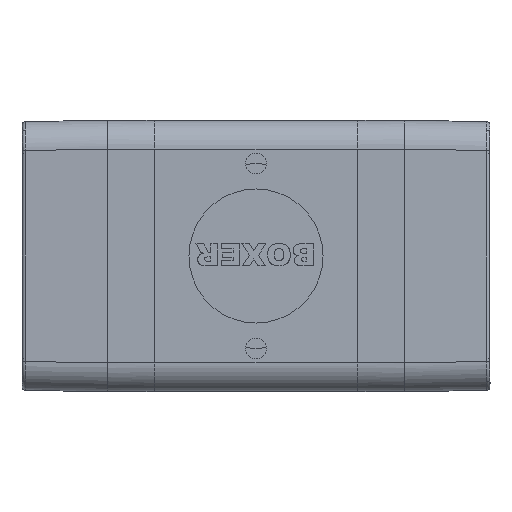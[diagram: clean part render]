
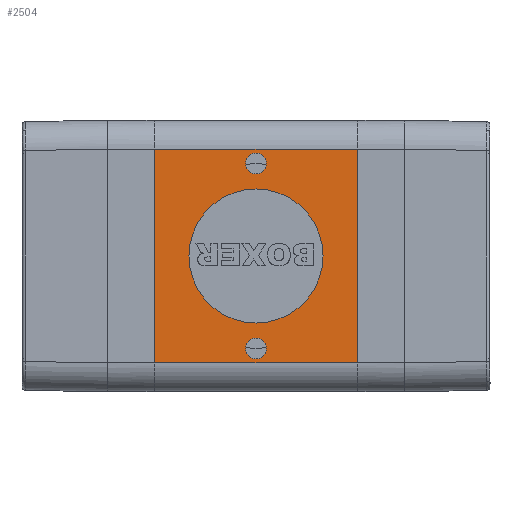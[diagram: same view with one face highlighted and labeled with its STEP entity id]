
A CAD part, left-side view. The second image highlights one B-rep face of the part: STEP entity #2504.
In plain terms, the highlighted planar face has unit normal (-1, 0, 0).
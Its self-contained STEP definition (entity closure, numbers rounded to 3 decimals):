
#322 = DIRECTION ( 'NONE',  ( -1., 0., 0. ) ) ;
#325 = CARTESIAN_POINT ( 'NONE',  ( -16.75, 0., -7.1 ) ) ;
#843 = EDGE_CURVE ( 'NONE', #14903, #11893, #7608, .T. ) ;
#1149 = FACE_BOUND ( 'NONE', #12073, .T. ) ;
#1371 = CIRCLE ( 'NONE', #7294, 5.8 ) ;
#1554 = CARTESIAN_POINT ( 'NONE',  ( -16.75, 8.775, 0. ) ) ;
#1674 = ORIENTED_EDGE ( 'NONE', *, *, #13214, .F. ) ;
#1919 = CARTESIAN_POINT ( 'NONE',  ( -16.75, 0., 8. ) ) ;
#1985 = FACE_OUTER_BOUND ( 'NONE', #17883, .T. ) ;
#2266 = VERTEX_POINT ( 'NONE', #15093 ) ;
#2308 = CARTESIAN_POINT ( 'NONE',  ( -16.75, -8.775, 0. ) ) ;
#2364 = ORIENTED_EDGE ( 'NONE', *, *, #16483, .F. ) ;
#2398 = VECTOR ( 'NONE', #6670, 1000. ) ;
#2489 = CARTESIAN_POINT ( 'NONE',  ( -16.75, 0., -8.9 ) ) ;
#2504 = ADVANCED_FACE ( 'NONE', ( #9332, #1149, #4799, #1985 ), #14559, .T. ) ;
#2785 = LINE ( 'NONE', #13557, #13351 ) ;
#2839 = LINE ( 'NONE', #3964, #2398 ) ;
#3305 = DIRECTION ( 'NONE',  ( 0., 0., -1. ) ) ;
#3521 = CIRCLE ( 'NONE', #11424, 0.9 ) ;
#3728 = LINE ( 'NONE', #1554, #10636 ) ;
#3786 = DIRECTION ( 'NONE',  ( -1., 0., 0. ) ) ;
#3964 = CARTESIAN_POINT ( 'NONE',  ( -16.75, -8.775, 9.25 ) ) ;
#4053 = VERTEX_POINT ( 'NONE', #5570 ) ;
#4452 = VERTEX_POINT ( 'NONE', #17437 ) ;
#4653 = DIRECTION ( 'NONE',  ( -1., 0., 0. ) ) ;
#4799 = FACE_BOUND ( 'NONE', #13507, .T. ) ;
#4873 = CARTESIAN_POINT ( 'NONE',  ( -16.75, -8.775, -9.25 ) ) ;
#4927 = CARTESIAN_POINT ( 'NONE',  ( -16.75, 0., 5.8 ) ) ;
#5040 = ORIENTED_EDGE ( 'NONE', *, *, #17518, .F. ) ;
#5271 = CIRCLE ( 'NONE', #9639, 0.9 ) ;
#5570 = CARTESIAN_POINT ( 'NONE',  ( -16.75, 8.775, 9.25 ) ) ;
#5657 = DIRECTION ( 'NONE',  ( 0., 0., 1. ) ) ;
#5906 = CIRCLE ( 'NONE', #7482, 5.8 ) ;
#5944 = CARTESIAN_POINT ( 'NONE',  ( -16.75, -8.775, 9.25 ) ) ;
#6036 = ORIENTED_EDGE ( 'NONE', *, *, #8893, .F. ) ;
#6403 = CARTESIAN_POINT ( 'NONE',  ( -16.75, 0., -8. ) ) ;
#6453 = ORIENTED_EDGE ( 'NONE', *, *, #16933, .F. ) ;
#6475 = ORIENTED_EDGE ( 'NONE', *, *, #9779, .F. ) ;
#6670 = DIRECTION ( 'NONE',  ( 0., 1., 0. ) ) ;
#6779 = AXIS2_PLACEMENT_3D ( 'NONE', #8054, #13433, #9840 ) ;
#6948 = ORIENTED_EDGE ( 'NONE', *, *, #843, .T. ) ;
#7126 = DIRECTION ( 'NONE',  ( -1., 0., 0. ) ) ;
#7190 = VECTOR ( 'NONE', #7538, 1000. ) ;
#7294 = AXIS2_PLACEMENT_3D ( 'NONE', #15423, #7126, #16816 ) ;
#7482 = AXIS2_PLACEMENT_3D ( 'NONE', #12901, #4653, #14320 ) ;
#7538 = DIRECTION ( 'NONE',  ( 0., 0., 1. ) ) ;
#7608 = LINE ( 'NONE', #2308, #7190 ) ;
#7779 = DIRECTION ( 'NONE',  ( 0., 0., 1. ) ) ;
#8054 = CARTESIAN_POINT ( 'NONE',  ( -16.75, -8.775, 0. ) ) ;
#8183 = VERTEX_POINT ( 'NONE', #325 ) ;
#8525 = CARTESIAN_POINT ( 'NONE',  ( -16.75, 0., 8. ) ) ;
#8893 = EDGE_CURVE ( 'NONE', #4452, #15204, #5271, .T. ) ;
#8934 = AXIS2_PLACEMENT_3D ( 'NONE', #6403, #16072, #7779 ) ;
#9332 = FACE_BOUND ( 'NONE', #11679, .T. ) ;
#9639 = AXIS2_PLACEMENT_3D ( 'NONE', #8525, #322, #9921 ) ;
#9696 = CARTESIAN_POINT ( 'NONE',  ( -16.75, 8.775, -9.25 ) ) ;
#9749 = CARTESIAN_POINT ( 'NONE',  ( -16.75, 0., 7.1 ) ) ;
#9779 = EDGE_CURVE ( 'NONE', #8183, #15590, #10022, .T. ) ;
#9840 = DIRECTION ( 'NONE',  ( 0., 1., 0. ) ) ;
#9921 = DIRECTION ( 'NONE',  ( 0., 0., -1. ) ) ;
#10022 = CIRCLE ( 'NONE', #8934, 0.9 ) ;
#10636 = VECTOR ( 'NONE', #5657, 1000. ) ;
#10840 = DIRECTION ( 'NONE',  ( 0., 1., 0. ) ) ;
#11424 = AXIS2_PLACEMENT_3D ( 'NONE', #1919, #11548, #3305 ) ;
#11447 = CIRCLE ( 'NONE', #17746, 0.9 ) ;
#11548 = DIRECTION ( 'NONE',  ( -1., 0., 0. ) ) ;
#11679 = EDGE_LOOP ( 'NONE', ( #6453, #15926 ) ) ;
#11714 = VERTEX_POINT ( 'NONE', #9696 ) ;
#11893 = VERTEX_POINT ( 'NONE', #5944 ) ;
#12029 = CARTESIAN_POINT ( 'NONE',  ( -16.75, 0., -8. ) ) ;
#12073 = EDGE_LOOP ( 'NONE', ( #6036, #14960 ) ) ;
#12901 = CARTESIAN_POINT ( 'NONE',  ( -16.75, 0., 0. ) ) ;
#13214 = EDGE_CURVE ( 'NONE', #14903, #11714, #2785, .T. ) ;
#13351 = VECTOR ( 'NONE', #10840, 1000. ) ;
#13433 = DIRECTION ( 'NONE',  ( -1., 0., 0. ) ) ;
#13437 = DIRECTION ( 'NONE',  ( 0., 0., 1. ) ) ;
#13507 = EDGE_LOOP ( 'NONE', ( #6475, #5040 ) ) ;
#13557 = CARTESIAN_POINT ( 'NONE',  ( -16.75, -8.775, -9.25 ) ) ;
#14320 = DIRECTION ( 'NONE',  ( 0., 0., 1. ) ) ;
#14559 = PLANE ( 'NONE',  #6779 ) ;
#14903 = VERTEX_POINT ( 'NONE', #4873 ) ;
#14955 = VERTEX_POINT ( 'NONE', #4927 ) ;
#14960 = ORIENTED_EDGE ( 'NONE', *, *, #16205, .F. ) ;
#15093 = CARTESIAN_POINT ( 'NONE',  ( -16.75, 0., -5.8 ) ) ;
#15204 = VERTEX_POINT ( 'NONE', #9749 ) ;
#15423 = CARTESIAN_POINT ( 'NONE',  ( -16.75, 0., 0. ) ) ;
#15590 = VERTEX_POINT ( 'NONE', #2489 ) ;
#15749 = EDGE_CURVE ( 'NONE', #2266, #14955, #5906, .T. ) ;
#15926 = ORIENTED_EDGE ( 'NONE', *, *, #15749, .F. ) ;
#16072 = DIRECTION ( 'NONE',  ( -1., 0., 0. ) ) ;
#16205 = EDGE_CURVE ( 'NONE', #15204, #4452, #3521, .T. ) ;
#16483 = EDGE_CURVE ( 'NONE', #11714, #4053, #3728, .T. ) ;
#16816 = DIRECTION ( 'NONE',  ( 0., 0., 1. ) ) ;
#16933 = EDGE_CURVE ( 'NONE', #14955, #2266, #1371, .T. ) ;
#16942 = ORIENTED_EDGE ( 'NONE', *, *, #17636, .T. ) ;
#17437 = CARTESIAN_POINT ( 'NONE',  ( -16.75, 0., 8.9 ) ) ;
#17518 = EDGE_CURVE ( 'NONE', #15590, #8183, #11447, .T. ) ;
#17636 = EDGE_CURVE ( 'NONE', #11893, #4053, #2839, .T. ) ;
#17746 = AXIS2_PLACEMENT_3D ( 'NONE', #12029, #3786, #13437 ) ;
#17883 = EDGE_LOOP ( 'NONE', ( #16942, #2364, #1674, #6948 ) ) ;
